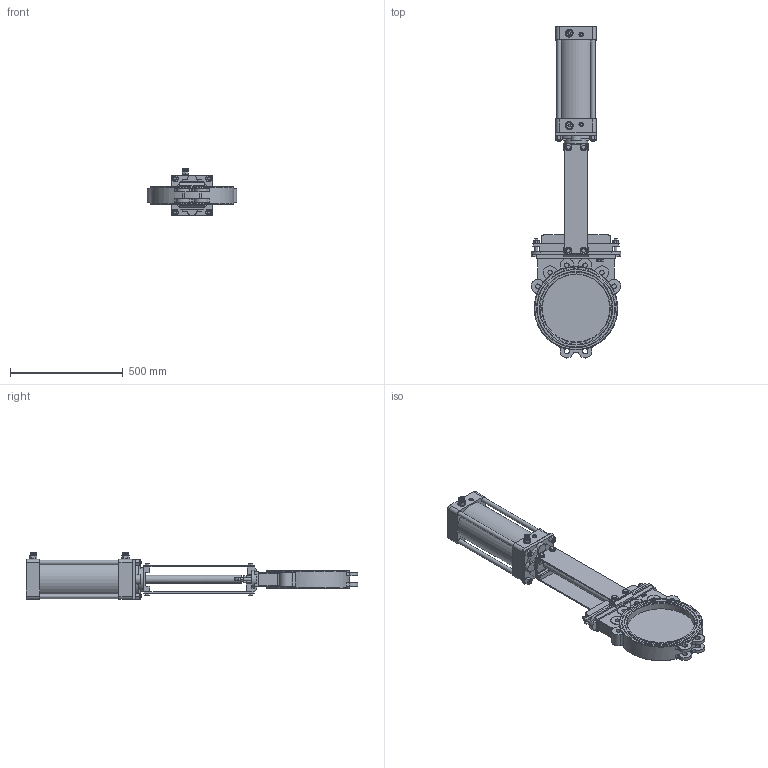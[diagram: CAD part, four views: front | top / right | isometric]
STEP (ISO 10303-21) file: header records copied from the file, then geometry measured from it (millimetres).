
FILE_DESCRIPTION(/* description */ ('D040-10118','CAx-IF Rec.Pracs.---Representation and Presentation of Product Manufacturing Information (PMI)---4.0---2014-10-13'),/* implementation_level */ '2;1');
FILE_NAME(/* name */ '',/* time_stamp */ '2026-03-14T02:45:44+03:00',/* author */ ('DN.RU'),/* organization */ ('DN.RU'),/* preprocessor_version */ 'ST-DEVELOPER v20',/* originating_system */ 'Autodesk Inventor 2025',/* authorisation */ '');
FILE_SCHEMA (('AP242_MANAGED_MODEL_BASED_3D_ENGINEERING_MIM_LF { 1 0 10303 442 1 1 4 }'));
Length unit declared in the file: millimetre
Products named in the file (1): GVKR1331E-2W-Fb-2P
Bounding box: 398.17 x 1472.72 x 210 mm (x, y, z)
Volume: 21012880.5 mm3; surface area: 1417067.5 mm2
Topology: 1 solids, 13 shells, 897 faces, 2203 edges, 1395 vertices
Faces by surface type: plane 537, cylinder 191, cone 134, bspline 23, torus 12
Full cylindrical faces by diameter (mm): 10 x2, 12 x10, 14 x4, 15 x4, 16 x16, 17 x10, 18 x14, 20 x24, 23 x2, 25 x4, 28 x2, 30 x8, 35 x3, 40 x1, 75 x1, 103.259 x1, 170 x1, 300 x2
Entity records: 27477 total; most frequent: CARTESIAN_POINT 5545, DIRECTION 4409, ORIENTED_EDGE 4398, EDGE_CURVE 2199, AXIS2_PLACEMENT_3D 1642, VERTEX_POINT 1395, LINE 1125, VECTOR 1125
